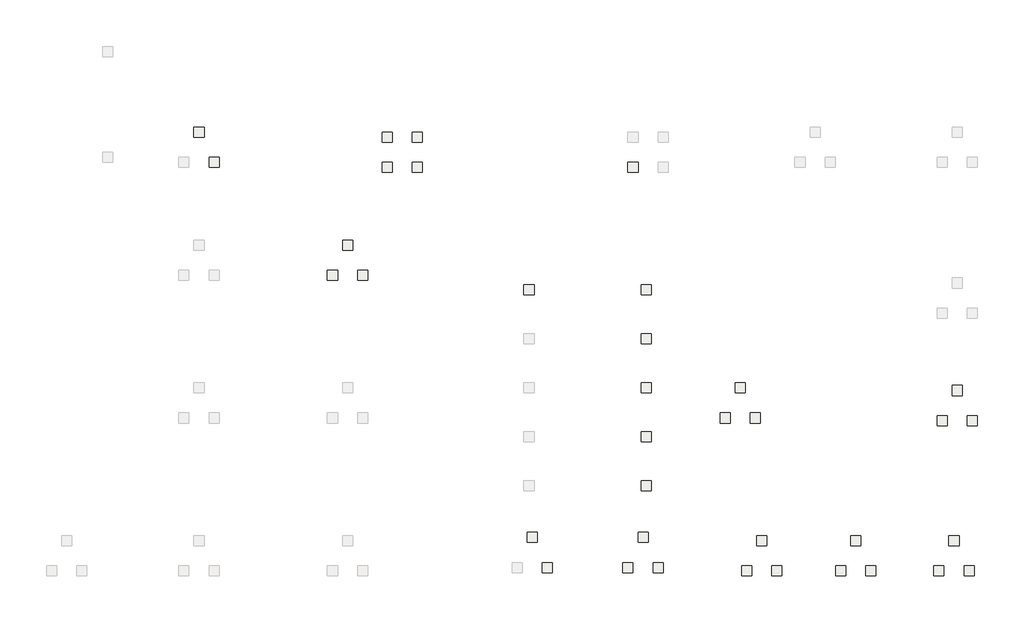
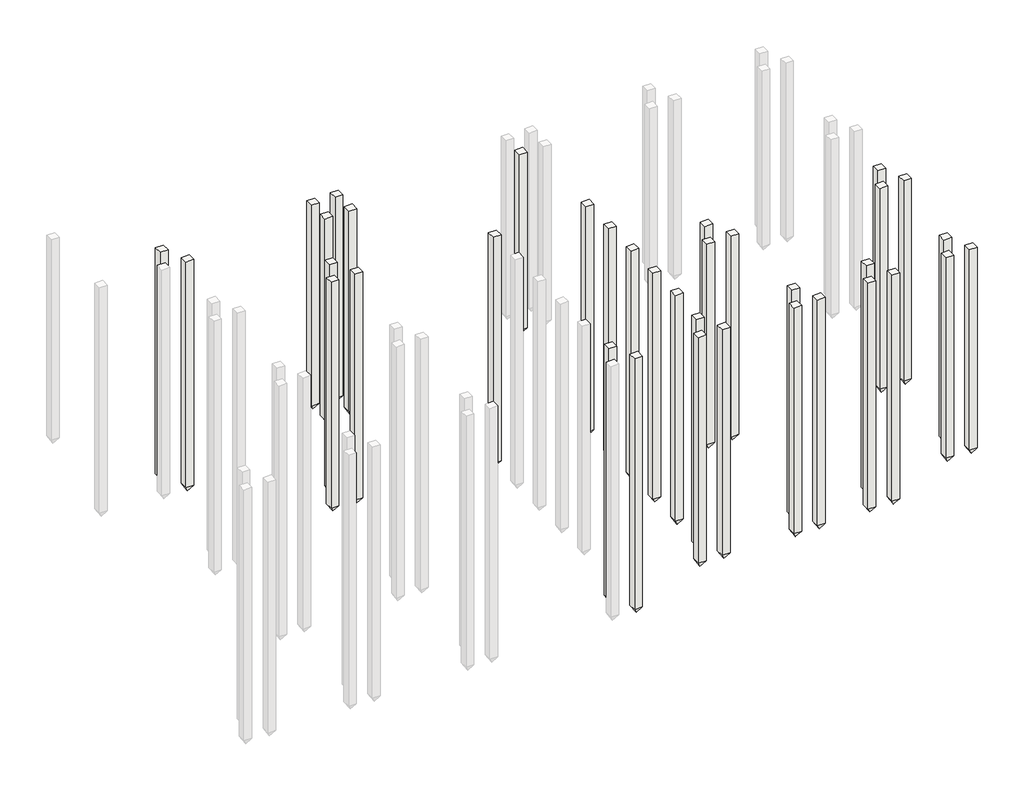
# One storey, part 5 of 6: 36 slabs.
"""IFC4 building model written with IfcOpenShell, lengths in millimetres."""

from ifc_helpers import new_model, si_unit, origin, place, context, project, spatial, faceted_brep, element, save

model = new_model("IFC4")

# Units and contexts
model_context = context("Model", 3, world=origin())
ifc_project = project(units=[si_unit("LENGTHUNIT", "METRE", prefix="MILLI")], contexts=[model_context])

# Site, building, storey
site = spatial("IfcSite", under=ifc_project)
building = spatial("IfcBuilding", under=site)
storey = spatial("IfcBuildingStorey", under=building, Name="КЖм.-1.150 (Верх свай 1)", Elevation=-1150.0)

# Slabs
placement = place(None, origin())
element("IfcSlab", 1, ObjectType="Бетонная свая прямоугольного сечения : C100.30-9", at=placement, inside=storey, context=model_context, shape_type="Brep", body=[
    faceted_brep([(48163.0761143, 17999.4703517, -1150.0), (47863.0761143, 17999.4703517, -1150.0), (47863.0761143, 17699.4703517, -1150.0), (48163.0761143, 17699.4703517, -1150.0), (48163.0761143, 17999.4703517, -1200.0), (48163.0761143, 17999.4703517, -1300.0), (48163.0761143, 17999.4703517, -11150.0), (47863.0761143, 17999.4703517, -11150.0), (47863.0761143, 17999.4703517, -1300.0), (47863.0761143, 17999.4703517, -1200.0), (47863.0761143, 17699.4703517, -11150.0), (47863.0761143, 17699.4703517, -1300.0), (47863.0761143, 17699.4703517, -1200.0), (48163.0761143, 17699.4703517, -11150.0), (48163.0761143, 17699.4703517, -1300.0), (48163.0761143, 17699.4703517, -1200.0), (48013.4986756, 17849.8505968, -11400.0), (48013.4986756, 17849.0505968, -11400.0), (48012.6986756, 17849.0505968, -11400.0), (48012.6986756, 17849.8505968, -11400.0)], [[[0, 1, 2, 3]], [[1, 0, 4, 5, 6, 7, 8, 9]], [[2, 1, 9, 8, 7, 10, 11, 12]], [[3, 2, 12, 11, 10, 13, 14, 15]], [[0, 3, 15, 14, 13, 6, 5, 4]], [[16, 17, 18, 19]], [[17, 16, 6, 13]], [[18, 17, 13, 10]], [[19, 18, 10, 7]], [[16, 19, 7, 6]]]),
])
element("IfcSlab", 2, ObjectType="Бетонная свая прямоугольного сечения : C100.30-9", at=placement, inside=storey, context=model_context, shape_type="Brep", body=[
    faceted_brep([(48313.0018576, 17099.4702629, -1150.0), (48313.0017661, 16799.4702629, -1150.0), (48613.0017661, 16799.4701715, -1150.0), (48613.0018576, 17099.4701715, -1150.0), (48613.0018576, 17099.4701715, -1200.0), (48613.0018576, 17099.4701715, -1300.0), (48613.0018576, 17099.4701715, -11150.0), (48313.0018576, 17099.4702629, -11150.0), (48313.0018576, 17099.4702629, -1300.0), (48313.0018576, 17099.4702629, -1200.0), (48613.0017661, 16799.4701715, -1200.0), (48613.0017661, 16799.4701715, -1300.0), (48613.0017661, 16799.4701715, -11150.0), (48313.0017661, 16799.4702629, -1200.0), (48313.0017661, 16799.4702629, -1300.0), (48313.0017661, 16799.4702629, -11150.0), (48462.5792507, 16949.8504624, -11400.0), (48463.3792507, 16949.8504622, -11400.0), (48463.3792505, 16949.0504622, -11400.0), (48462.5792505, 16949.0504624, -11400.0)], [[[0, 1, 2, 3]], [[3, 4, 5, 6, 7, 8, 9, 0]], [[2, 10, 11, 12, 6, 5, 4, 3]], [[1, 13, 14, 15, 12, 11, 10, 2]], [[0, 9, 8, 7, 15, 14, 13, 1]], [[16, 17, 18, 19]], [[19, 15, 7, 16]], [[18, 12, 15, 19]], [[17, 6, 12, 18]], [[16, 7, 6, 17]]]),
])
element("IfcSlab", 3, ObjectType="Бетонная свая прямоугольного сечения : C70.30-8", at=placement, inside=storey, context=model_context, shape_type="Brep", body=[
    faceted_brep([(51163.050956, 28734.4354275, -1150.0), (51163.050956, 29034.4354275, -1150.0), (50863.050956, 29034.4354275, -1150.0), (50863.050956, 28734.4354275, -1150.0), (50863.050956, 28734.4354275, -1200.0), (50863.050956, 28734.4354275, -1300.0), (50863.050956, 28734.4354275, -8150.0), (51163.050956, 28734.4354275, -8150.0), (51163.050956, 28734.4354275, -1300.0), (51163.050956, 28734.4354275, -1200.0), (50863.050956, 29034.4354275, -1200.0), (50863.050956, 29034.4354275, -1300.0), (50863.050956, 29034.4354275, -8150.0), (51163.050956, 29034.4354275, -1200.0), (51163.050956, 29034.4354275, -1300.0), (51163.050956, 29034.4354275, -8150.0), (51013.4735173, 28884.0551824, -8400.0), (51012.6735173, 28884.0551824, -8400.0), (51012.6735173, 28884.8551824, -8400.0), (51013.4735173, 28884.8551824, -8400.0)], [[[0, 1, 2, 3]], [[3, 4, 5, 6, 7, 8, 9, 0]], [[2, 10, 11, 12, 6, 5, 4, 3]], [[1, 13, 14, 15, 12, 11, 10, 2]], [[0, 9, 8, 7, 15, 14, 13, 1]], [[16, 17, 18, 19]], [[19, 15, 7, 16]], [[18, 12, 15, 19]], [[17, 6, 12, 18]], [[16, 7, 6, 17]]]),
])
element("IfcSlab", 4, ObjectType="Бетонная свая прямоугольного сечения : C80.30-8", at=placement, inside=storey, context=model_context, shape_type="Brep", body=[
    faceted_brep([(53913.0495126, 21559.4772766, -1150.0), (53613.0495126, 21559.4772766, -1150.0), (53613.0495126, 21259.4772766, -1150.0), (53913.0495126, 21259.4772766, -1150.0), (53913.0495126, 21559.4772766, -1200.0), (53913.0495126, 21559.4772766, -9150.0), (53613.0495126, 21559.4772766, -9150.0), (53613.0495126, 21559.4772766, -1200.0), (53613.0495126, 21259.4772766, -9150.0), (53613.0495126, 21259.4772766, -1200.0), (53913.0495126, 21259.4772766, -9150.0), (53913.0495126, 21259.4772766, -1200.0), (53763.4720738, 21409.8575217, -9400.0), (53763.4720738, 21409.0575217, -9400.0), (53762.6720738, 21409.0575217, -9400.0), (53762.6720738, 21409.8575217, -9400.0)], [[[0, 1, 2, 3]], [[1, 0, 4, 5, 6, 7]], [[2, 1, 7, 6, 8, 9]], [[3, 2, 9, 8, 10, 11]], [[0, 3, 11, 10, 5, 4]], [[12, 13, 14, 15]], [[13, 12, 5, 10]], [[14, 13, 10, 8]], [[15, 14, 8, 6]], [[12, 15, 6, 5]]]),
])
element("IfcSlab", 5, ObjectType="Бетонная свая прямоугольного сечения : C80.30-8", at=placement, inside=storey, context=model_context, shape_type="Brep", body=[
    faceted_brep([(54363.0754845, 22459.4772739, -1150.0), (54063.0754845, 22459.4772739, -1150.0), (54063.0754845, 22159.4772739, -1150.0), (54363.0754845, 22159.4772739, -1150.0), (54363.0754845, 22459.4772739, -1200.0), (54363.0754845, 22459.4772739, -9150.0), (54063.0754845, 22459.4772739, -9150.0), (54063.0754845, 22459.4772739, -1200.0), (54063.0754845, 22159.4772739, -9150.0), (54063.0754845, 22159.4772739, -1200.0), (54363.0754845, 22159.4772739, -9150.0), (54363.0754845, 22159.4772739, -1200.0), (54213.4980457, 22309.857519, -9400.0), (54213.4980457, 22309.057519, -9400.0), (54212.6980457, 22309.057519, -9400.0), (54212.6980457, 22309.857519, -9400.0)], [[[0, 1, 2, 3]], [[1, 0, 4, 5, 6, 7]], [[2, 1, 7, 6, 8, 9]], [[3, 2, 9, 8, 10, 11]], [[0, 3, 11, 10, 5, 4]], [[12, 13, 14, 15]], [[13, 12, 5, 10]], [[14, 13, 10, 8]], [[15, 14, 8, 6]], [[12, 15, 6, 5]]]),
])
element("IfcSlab", 6, ObjectType="Бетонная свая прямоугольного сечения : C80.30-8", at=placement, inside=storey, context=model_context, shape_type="Brep", body=[
    faceted_brep([(54513.0012278, 21559.4771851, -1150.0), (54513.0011363, 21259.4771851, -1150.0), (54813.0011363, 21259.4770936, -1150.0), (54813.0012278, 21559.4770936, -1150.0), (54813.0012278, 21559.4770936, -1200.0), (54813.0012278, 21559.4770936, -9150.0), (54513.0012278, 21559.4771851, -9150.0), (54513.0012278, 21559.4771851, -1200.0), (54813.0011363, 21259.4770936, -1200.0), (54813.0011363, 21259.4770936, -9150.0), (54513.0011363, 21259.4771851, -1200.0), (54513.0011363, 21259.4771851, -9150.0), (54662.5786209, 21409.8573846, -9400.0), (54663.3786209, 21409.8573844, -9400.0), (54663.3786207, 21409.0573844, -9400.0), (54662.5786207, 21409.0573846, -9400.0)], [[[0, 1, 2, 3]], [[3, 4, 5, 6, 7, 0]], [[2, 8, 9, 5, 4, 3]], [[1, 10, 11, 9, 8, 2]], [[0, 7, 6, 11, 10, 1]], [[12, 13, 14, 15]], [[15, 11, 6, 12]], [[14, 9, 11, 15]], [[13, 5, 9, 14]], [[12, 6, 5, 13]]]),
])
element("IfcSlab", 7, ObjectType="Бетонная свая прямоугольного сечения : C80.30-8", at=placement, inside=storey, context=model_context, shape_type="Brep", body=[
    faceted_brep([(60383.0501888, 21479.4786856, -1150.0), (60083.0501888, 21479.4786856, -1150.0), (60083.0501888, 21179.4786856, -1150.0), (60383.0501888, 21179.4786856, -1150.0), (60383.0501888, 21479.4786856, -1200.0), (60383.0501888, 21479.4786856, -1300.0), (60383.0501888, 21479.4786856, -9150.0), (60083.0501888, 21479.4786856, -9150.0), (60083.0501888, 21479.4786856, -1300.0), (60083.0501888, 21479.4786856, -1200.0), (60083.0501888, 21179.4786856, -9150.0), (60083.0501888, 21179.4786856, -1300.0), (60083.0501888, 21179.4786856, -1200.0), (60383.0501888, 21179.4786856, -9150.0), (60383.0501888, 21179.4786856, -1300.0), (60383.0501888, 21179.4786856, -1200.0), (60233.4727501, 21329.8589307, -9400.0), (60233.4727501, 21329.0589307, -9400.0), (60232.6727501, 21329.0589307, -9400.0), (60232.6727501, 21329.8589307, -9400.0)], [[[0, 1, 2, 3]], [[1, 0, 4, 5, 6, 7, 8, 9]], [[2, 1, 9, 8, 7, 10, 11, 12]], [[3, 2, 12, 11, 10, 13, 14, 15]], [[0, 3, 15, 14, 13, 6, 5, 4]], [[16, 17, 18, 19]], [[17, 16, 6, 13]], [[18, 17, 13, 10]], [[19, 18, 10, 7]], [[16, 19, 7, 6]]]),
])
element("IfcSlab", 8, ObjectType="Бетонная свая прямоугольного сечения : C80.30-8", at=placement, inside=storey, context=model_context, shape_type="Brep", body=[
    faceted_brep([(60833.0761608, 22379.4786829, -1150.0), (60533.0761608, 22379.4786829, -1150.0), (60533.0761608, 22079.4786829, -1150.0), (60833.0761608, 22079.4786829, -1150.0), (60833.0761608, 22379.4786829, -1200.0), (60833.0761608, 22379.4786829, -1300.0), (60833.0761608, 22379.4786829, -9150.0), (60533.0761608, 22379.4786829, -9150.0), (60533.0761608, 22379.4786829, -1300.0), (60533.0761608, 22379.4786829, -1200.0), (60533.0761608, 22079.4786829, -9150.0), (60533.0761608, 22079.4786829, -1300.0), (60533.0761608, 22079.4786829, -1200.0), (60833.0761608, 22079.4786829, -9150.0), (60833.0761608, 22079.4786829, -1300.0), (60833.0761608, 22079.4786829, -1200.0), (60683.498722, 22229.858928, -9400.0), (60683.498722, 22229.058928, -9400.0), (60682.698722, 22229.058928, -9400.0), (60682.698722, 22229.858928, -9400.0)], [[[0, 1, 2, 3]], [[1, 0, 4, 5, 6, 7, 8, 9]], [[2, 1, 9, 8, 7, 10, 11, 12]], [[3, 2, 12, 11, 10, 13, 14, 15]], [[0, 3, 15, 14, 13, 6, 5, 4]], [[16, 17, 18, 19]], [[17, 16, 6, 13]], [[18, 17, 13, 10]], [[19, 18, 10, 7]], [[16, 19, 7, 6]]]),
])
element("IfcSlab", 9, ObjectType="Бетонная свая прямоугольного сечения : C80.30-8", at=placement, inside=storey, context=model_context, shape_type="Brep", body=[
    faceted_brep([(60983.001904, 21479.4785941, -1150.0), (60983.0018125, 21179.4785941, -1150.0), (61283.0018125, 21179.4785026, -1150.0), (61283.001904, 21479.4785026, -1150.0), (61283.001904, 21479.4785026, -1200.0), (61283.001904, 21479.4785026, -1300.0), (61283.001904, 21479.4785026, -9150.0), (60983.001904, 21479.4785941, -9150.0), (60983.001904, 21479.4785941, -1300.0), (60983.001904, 21479.4785941, -1200.0), (61283.0018125, 21179.4785026, -1200.0), (61283.0018125, 21179.4785026, -1300.0), (61283.0018125, 21179.4785026, -9150.0), (60983.0018125, 21179.4785941, -1200.0), (60983.0018125, 21179.4785941, -1300.0), (60983.0018125, 21179.4785941, -9150.0), (61132.5792972, 21329.8587936, -9400.0), (61133.3792972, 21329.8587934, -9400.0), (61133.3792969, 21329.0587934, -9400.0), (61132.5792969, 21329.0587936, -9400.0)], [[[0, 1, 2, 3]], [[3, 4, 5, 6, 7, 8, 9, 0]], [[2, 10, 11, 12, 6, 5, 4, 3]], [[1, 13, 14, 15, 12, 11, 10, 2]], [[0, 9, 8, 7, 15, 14, 13, 1]], [[16, 17, 18, 19]], [[19, 15, 7, 16]], [[18, 12, 15, 19]], [[17, 6, 12, 18]], [[16, 7, 6, 17]]]),
])
element("IfcSlab", 10, ObjectType="Бетонная свая прямоугольного сечения : C80.30-8", at=placement, inside=storey, context=model_context, shape_type="Brep", body=[
    faceted_brep([(60283.0501888, 16999.4786856, -1150.0), (59983.0501888, 16999.4786856, -1150.0), (59983.0501888, 16699.4786856, -1150.0), (60283.0501888, 16699.4786856, -1150.0), (60283.0501888, 16999.4786856, -1200.0), (60283.0501888, 16999.4786856, -1300.0), (60283.0501888, 16999.4786856, -9150.0), (59983.0501888, 16999.4786856, -9150.0), (59983.0501888, 16999.4786856, -1300.0), (59983.0501888, 16999.4786856, -1200.0), (59983.0501888, 16699.4786856, -9150.0), (59983.0501888, 16699.4786856, -1300.0), (59983.0501888, 16699.4786856, -1200.0), (60283.0501888, 16699.4786856, -9150.0), (60283.0501888, 16699.4786856, -1300.0), (60283.0501888, 16699.4786856, -1200.0), (60133.4727501, 16849.8589307, -9400.0), (60133.4727501, 16849.0589307, -9400.0), (60132.6727501, 16849.0589307, -9400.0), (60132.6727501, 16849.8589307, -9400.0)], [[[0, 1, 2, 3]], [[1, 0, 4, 5, 6, 7, 8, 9]], [[2, 1, 9, 8, 7, 10, 11, 12]], [[3, 2, 12, 11, 10, 13, 14, 15]], [[0, 3, 15, 14, 13, 6, 5, 4]], [[16, 17, 18, 19]], [[17, 16, 6, 13]], [[18, 17, 13, 10]], [[19, 18, 10, 7]], [[16, 19, 7, 6]]]),
])
element("IfcSlab", 11, ObjectType="Бетонная свая прямоугольного сечения : C80.30-8", at=placement, inside=storey, context=model_context, shape_type="Brep", body=[
    faceted_brep([(60733.0761608, 17899.4786829, -1150.0), (60433.0761608, 17899.4786829, -1150.0), (60433.0761608, 17599.4786829, -1150.0), (60733.0761608, 17599.4786829, -1150.0), (60733.0761608, 17899.4786829, -1200.0), (60733.0761608, 17899.4786829, -1300.0), (60733.0761608, 17899.4786829, -9150.0), (60433.0761608, 17899.4786829, -9150.0), (60433.0761608, 17899.4786829, -1300.0), (60433.0761608, 17899.4786829, -1200.0), (60433.0761608, 17599.4786829, -9150.0), (60433.0761608, 17599.4786829, -1300.0), (60433.0761608, 17599.4786829, -1200.0), (60733.0761608, 17599.4786829, -9150.0), (60733.0761608, 17599.4786829, -1300.0), (60733.0761608, 17599.4786829, -1200.0), (60583.498722, 17749.858928, -9400.0), (60583.498722, 17749.058928, -9400.0), (60582.698722, 17749.058928, -9400.0), (60582.698722, 17749.858928, -9400.0)], [[[0, 1, 2, 3]], [[1, 0, 4, 5, 6, 7, 8, 9]], [[2, 1, 9, 8, 7, 10, 11, 12]], [[3, 2, 12, 11, 10, 13, 14, 15]], [[0, 3, 15, 14, 13, 6, 5, 4]], [[16, 17, 18, 19]], [[17, 16, 6, 13]], [[18, 17, 13, 10]], [[19, 18, 10, 7]], [[16, 19, 7, 6]]]),
])
element("IfcSlab", 12, ObjectType="Бетонная свая прямоугольного сечения : C80.30-8", at=placement, inside=storey, context=model_context, shape_type="Brep", body=[
    faceted_brep([(60883.001904, 16999.4785941, -1150.0), (60883.0018125, 16699.4785941, -1150.0), (61183.0018125, 16699.4785026, -1150.0), (61183.001904, 16999.4785026, -1150.0), (61183.001904, 16999.4785026, -1200.0), (61183.001904, 16999.4785026, -1300.0), (61183.001904, 16999.4785026, -9150.0), (60883.001904, 16999.4785941, -9150.0), (60883.001904, 16999.4785941, -1300.0), (60883.001904, 16999.4785941, -1200.0), (61183.0018125, 16699.4785026, -1200.0), (61183.0018125, 16699.4785026, -1300.0), (61183.0018125, 16699.4785026, -9150.0), (60883.0018125, 16699.4785941, -1200.0), (60883.0018125, 16699.4785941, -1300.0), (60883.0018125, 16699.4785941, -9150.0), (61032.5792972, 16849.8587936, -9400.0), (61033.3792972, 16849.8587934, -9400.0), (61033.3792969, 16849.0587934, -9400.0), (61032.5792969, 16849.0587936, -9400.0)], [[[0, 1, 2, 3]], [[3, 4, 5, 6, 7, 8, 9, 0]], [[2, 10, 11, 12, 6, 5, 4, 3]], [[1, 13, 14, 15, 12, 11, 10, 2]], [[0, 9, 8, 7, 15, 14, 13, 1]], [[16, 17, 18, 19]], [[19, 15, 7, 16]], [[18, 12, 15, 19]], [[17, 6, 12, 18]], [[16, 7, 6, 17]]]),
])
element("IfcSlab", 13, ObjectType="Бетонная свая прямоугольного сечения : C80.30-8", at=placement, inside=storey, context=model_context, shape_type="Brep", body=[
    faceted_brep([(43833.0504299, 29934.4354275, -1150.0), (43533.0504299, 29934.4354275, -1150.0), (43533.0504299, 29634.4354275, -1150.0), (43833.0504299, 29634.4354275, -1150.0), (43833.0504299, 29934.4354275, -1200.0), (43833.0504299, 29934.4354275, -1300.0), (43833.0504299, 29934.4354275, -9150.0), (43533.0504299, 29934.4354275, -9150.0), (43533.0504299, 29934.4354275, -1300.0), (43533.0504299, 29934.4354275, -1200.0), (43533.0504299, 29634.4354275, -9150.0), (43533.0504299, 29634.4354275, -1300.0), (43533.0504299, 29634.4354275, -1200.0), (43833.0504299, 29634.4354275, -9150.0), (43833.0504299, 29634.4354275, -1300.0), (43833.0504299, 29634.4354275, -1200.0), (43683.4729911, 29784.8156726, -9400.0), (43683.4729911, 29784.0156726, -9400.0), (43682.6729911, 29784.0156726, -9400.0), (43682.6729911, 29784.8156726, -9400.0)], [[[0, 1, 2, 3]], [[1, 0, 4, 5, 6, 7, 8, 9]], [[2, 1, 9, 8, 7, 10, 11, 12]], [[3, 2, 12, 11, 10, 13, 14, 15]], [[0, 3, 15, 14, 13, 6, 5, 4]], [[16, 17, 18, 19]], [[17, 16, 6, 13]], [[18, 17, 13, 10]], [[19, 18, 10, 7]], [[16, 19, 7, 6]]]),
])
element("IfcSlab", 14, ObjectType="Бетонная свая прямоугольного сечения : C80.30-8", at=placement, inside=storey, context=model_context, shape_type="Brep", body=[
    faceted_brep([(44433.0503634, 29934.4353361, -1150.0), (44433.0502719, 29634.4353361, -1150.0), (44733.0502719, 29634.4352446, -1150.0), (44733.0503634, 29934.4352446, -1150.0), (44733.0503634, 29934.4352446, -1200.0), (44733.0503634, 29934.4352446, -1300.0), (44733.0503634, 29934.4352446, -9150.0), (44433.0503634, 29934.4353361, -9150.0), (44433.0503634, 29934.4353361, -1300.0), (44433.0503634, 29934.4353361, -1200.0), (44733.0502719, 29634.4352446, -1200.0), (44733.0502719, 29634.4352446, -1300.0), (44733.0502719, 29634.4352446, -9150.0), (44433.0502719, 29634.4353361, -1200.0), (44433.0502719, 29634.4353361, -1300.0), (44433.0502719, 29634.4353361, -9150.0), (44582.6277566, 29784.8155355, -9400.0), (44583.4277566, 29784.8155353, -9400.0), (44583.4277563, 29784.0155353, -9400.0), (44582.6277563, 29784.0155355, -9400.0)], [[[0, 1, 2, 3]], [[3, 4, 5, 6, 7, 8, 9, 0]], [[2, 10, 11, 12, 6, 5, 4, 3]], [[1, 13, 14, 15, 12, 11, 10, 2]], [[0, 9, 8, 7, 15, 14, 13, 1]], [[16, 17, 18, 19]], [[19, 15, 7, 16]], [[18, 12, 15, 19]], [[17, 6, 12, 18]], [[16, 7, 6, 17]]]),
])
element("IfcSlab", 15, ObjectType="Бетонная свая прямоугольного сечения : C80.30-8", at=placement, inside=storey, context=model_context, shape_type="Brep", body=[
    faceted_brep([(43833.0504299, 28734.4354275, -1150.0), (43833.0504299, 29034.4354275, -1150.0), (43533.0504299, 29034.4354275, -1150.0), (43533.0504299, 28734.4354275, -1150.0), (43533.0504299, 28734.4354275, -1200.0), (43533.0504299, 28734.4354275, -1300.0), (43533.0504299, 28734.4354275, -9150.0), (43833.0504299, 28734.4354275, -9150.0), (43833.0504299, 28734.4354275, -1300.0), (43833.0504299, 28734.4354275, -1200.0), (43533.0504299, 29034.4354275, -1200.0), (43533.0504299, 29034.4354275, -1300.0), (43533.0504299, 29034.4354275, -9150.0), (43833.0504299, 29034.4354275, -1200.0), (43833.0504299, 29034.4354275, -1300.0), (43833.0504299, 29034.4354275, -9150.0), (43683.4729911, 28884.0551824, -9400.0), (43682.6729911, 28884.0551824, -9400.0), (43682.6729911, 28884.8551824, -9400.0), (43683.4729911, 28884.8551824, -9400.0)], [[[0, 1, 2, 3]], [[3, 4, 5, 6, 7, 8, 9, 0]], [[2, 10, 11, 12, 6, 5, 4, 3]], [[1, 13, 14, 15, 12, 11, 10, 2]], [[0, 9, 8, 7, 15, 14, 13, 1]], [[16, 17, 18, 19]], [[19, 15, 7, 16]], [[18, 12, 15, 19]], [[17, 6, 12, 18]], [[16, 7, 6, 17]]]),
])
element("IfcSlab", 16, ObjectType="Бетонная свая прямоугольного сечения : C80.30-8", at=placement, inside=storey, context=model_context, shape_type="Brep", body=[
    faceted_brep([(44433.0503634, 28734.435519, -1150.0), (44733.0503634, 28734.4356105, -1150.0), (44733.0502719, 29034.4356105, -1150.0), (44433.0502719, 29034.435519, -1150.0), (44433.0503634, 28734.435519, -1200.0), (44433.0503634, 28734.435519, -1300.0), (44433.0503634, 28734.435519, -9150.0), (44733.0503634, 28734.4356105, -9150.0), (44733.0503634, 28734.4356105, -1300.0), (44733.0503634, 28734.4356105, -1200.0), (44733.0502719, 29034.4356105, -9150.0), (44733.0502719, 29034.4356105, -1300.0), (44733.0502719, 29034.4356105, -1200.0), (44433.0502719, 29034.435519, -9150.0), (44433.0502719, 29034.435519, -1300.0), (44433.0502719, 29034.435519, -1200.0), (44582.6277566, 28884.0553195, -9400.0), (44582.6277563, 28884.8553195, -9400.0), (44583.4277563, 28884.8553197, -9400.0), (44583.4277566, 28884.0553197, -9400.0)], [[[0, 1, 2, 3]], [[1, 0, 4, 5, 6, 7, 8, 9]], [[2, 1, 9, 8, 7, 10, 11, 12]], [[3, 2, 12, 11, 10, 13, 14, 15]], [[0, 3, 15, 14, 13, 6, 5, 4]], [[16, 17, 18, 19]], [[17, 16, 6, 13]], [[18, 17, 13, 10]], [[19, 18, 10, 7]], [[16, 19, 7, 6]]]),
])
element("IfcSlab", 17, ObjectType="Бетонная свая прямоугольного сечения : C90.30-8", at=placement, inside=storey, context=model_context, shape_type="Brep", body=[
    faceted_brep([(51562.8975835, 25384.4354275, -1150.0), (51262.8975835, 25384.4354275, -1150.0), (51262.8975835, 25084.4354275, -1150.0), (51562.8975835, 25084.4354275, -1150.0), (51562.8975835, 25384.4354275, -1200.0), (51562.8975835, 25384.4354275, -1300.0), (51562.8975835, 25384.4354275, -10150.0), (51262.8975835, 25384.4354275, -10150.0), (51262.8975835, 25384.4354275, -1300.0), (51262.8975835, 25384.4354275, -1200.0), (51262.8975835, 25084.4354275, -10150.0), (51262.8975835, 25084.4354275, -1300.0), (51262.8975835, 25084.4354275, -1200.0), (51562.8975835, 25084.4354275, -10150.0), (51562.8975835, 25084.4354275, -1300.0), (51562.8975835, 25084.4354275, -1200.0), (51413.3201447, 25234.8156726, -10400.0), (51413.3201447, 25234.0156726, -10400.0), (51412.5201447, 25234.0156726, -10400.0), (51412.5201447, 25234.8156726, -10400.0)], [[[0, 1, 2, 3]], [[1, 0, 4, 5, 6, 7, 8, 9]], [[2, 1, 9, 8, 7, 10, 11, 12]], [[3, 2, 12, 11, 10, 13, 14, 15]], [[0, 3, 15, 14, 13, 6, 5, 4]], [[16, 17, 18, 19]], [[17, 16, 6, 13]], [[18, 17, 13, 10]], [[19, 18, 10, 7]], [[16, 19, 7, 6]]]),
])
element("IfcSlab", 18, ObjectType="Бетонная свая прямоугольного сечения : C90.30-8", at=placement, inside=storey, context=model_context, shape_type="Brep", body=[
    faceted_brep([(57353.0501612, 16999.4703544, -1150.0), (57053.0501612, 16999.4703544, -1150.0), (57053.0501612, 16699.4703544, -1150.0), (57353.0501612, 16699.4703544, -1150.0), (57353.0501612, 16999.4703544, -1200.0), (57353.0501612, 16999.4703544, -1300.0), (57353.0501612, 16999.4703544, -10150.0), (57053.0501612, 16999.4703544, -10150.0), (57053.0501612, 16999.4703544, -1300.0), (57053.0501612, 16999.4703544, -1200.0), (57053.0501612, 16699.4703544, -10150.0), (57053.0501612, 16699.4703544, -1300.0), (57053.0501612, 16699.4703544, -1200.0), (57353.0501612, 16699.4703544, -10150.0), (57353.0501612, 16699.4703544, -1300.0), (57353.0501612, 16699.4703544, -1200.0), (57203.4727225, 16849.8505995, -10400.0), (57203.4727225, 16849.0505995, -10400.0), (57202.6727225, 16849.0505995, -10400.0), (57202.6727225, 16849.8505995, -10400.0)], [[[0, 1, 2, 3]], [[1, 0, 4, 5, 6, 7, 8, 9]], [[2, 1, 9, 8, 7, 10, 11, 12]], [[3, 2, 12, 11, 10, 13, 14, 15]], [[0, 3, 15, 14, 13, 6, 5, 4]], [[16, 17, 18, 19]], [[17, 16, 6, 13]], [[18, 17, 13, 10]], [[19, 18, 10, 7]], [[16, 19, 7, 6]]]),
])
element("IfcSlab", 19, ObjectType="Бетонная свая прямоугольного сечения : C90.30-8", at=placement, inside=storey, context=model_context, shape_type="Brep", body=[
    faceted_brep([(57803.0761332, 17899.4703517, -1150.0), (57503.0761332, 17899.4703517, -1150.0), (57503.0761332, 17599.4703517, -1150.0), (57803.0761332, 17599.4703517, -1150.0), (57803.0761332, 17899.4703517, -1200.0), (57803.0761332, 17899.4703517, -1300.0), (57803.0761332, 17899.4703517, -10150.0), (57503.0761332, 17899.4703517, -10150.0), (57503.0761332, 17899.4703517, -1300.0), (57503.0761332, 17899.4703517, -1200.0), (57503.0761332, 17599.4703517, -10150.0), (57503.0761332, 17599.4703517, -1300.0), (57503.0761332, 17599.4703517, -1200.0), (57803.0761332, 17599.4703517, -10150.0), (57803.0761332, 17599.4703517, -1300.0), (57803.0761332, 17599.4703517, -1200.0), (57653.4986944, 17749.8505968, -10400.0), (57653.4986944, 17749.0505968, -10400.0), (57652.6986944, 17749.0505968, -10400.0), (57652.6986944, 17749.8505968, -10400.0)], [[[0, 1, 2, 3]], [[1, 0, 4, 5, 6, 7, 8, 9]], [[2, 1, 9, 8, 7, 10, 11, 12]], [[3, 2, 12, 11, 10, 13, 14, 15]], [[0, 3, 15, 14, 13, 6, 5, 4]], [[16, 17, 18, 19]], [[17, 16, 6, 13]], [[18, 17, 13, 10]], [[19, 18, 10, 7]], [[16, 19, 7, 6]]]),
])
element("IfcSlab", 20, ObjectType="Бетонная свая прямоугольного сечения : C90.30-8", at=placement, inside=storey, context=model_context, shape_type="Brep", body=[
    faceted_brep([(57953.0018764, 16999.4702629, -1150.0), (57953.0017849, 16699.4702629, -1150.0), (58253.0017849, 16699.4701715, -1150.0), (58253.0018764, 16999.4701715, -1150.0), (58253.0018764, 16999.4701715, -1200.0), (58253.0018764, 16999.4701715, -1300.0), (58253.0018764, 16999.4701715, -10150.0), (57953.0018764, 16999.4702629, -10150.0), (57953.0018764, 16999.4702629, -1300.0), (57953.0018764, 16999.4702629, -1200.0), (58253.0017849, 16699.4701715, -1200.0), (58253.0017849, 16699.4701715, -1300.0), (58253.0017849, 16699.4701715, -10150.0), (57953.0017849, 16699.4702629, -1200.0), (57953.0017849, 16699.4702629, -1300.0), (57953.0017849, 16699.4702629, -10150.0), (58102.5792696, 16849.8504624, -10400.0), (58103.3792696, 16849.8504622, -10400.0), (58103.3792693, 16849.0504622, -10400.0), (58102.5792693, 16849.0504624, -10400.0)], [[[0, 1, 2, 3]], [[3, 4, 5, 6, 7, 8, 9, 0]], [[2, 10, 11, 12, 6, 5, 4, 3]], [[1, 13, 14, 15, 12, 11, 10, 2]], [[0, 9, 8, 7, 15, 14, 13, 1]], [[16, 17, 18, 19]], [[19, 15, 7, 16]], [[18, 12, 15, 19]], [[17, 6, 12, 18]], [[16, 7, 6, 17]]]),
])
element("IfcSlab", 21, ObjectType="Бетонная свая прямоугольного сечения : C90.30-8", at=placement, inside=storey, context=model_context, shape_type="Brep", body=[
    faceted_brep([(54553.0501612, 16999.4703544, -1150.0), (54253.0501612, 16999.4703544, -1150.0), (54253.0501612, 16699.4703544, -1150.0), (54553.0501612, 16699.4703544, -1150.0), (54553.0501612, 16999.4703544, -1200.0), (54553.0501612, 16999.4703544, -1300.0), (54553.0501612, 16999.4703544, -10150.0), (54253.0501612, 16999.4703544, -10150.0), (54253.0501612, 16999.4703544, -1300.0), (54253.0501612, 16999.4703544, -1200.0), (54253.0501612, 16699.4703544, -10150.0), (54253.0501612, 16699.4703544, -1300.0), (54253.0501612, 16699.4703544, -1200.0), (54553.0501612, 16699.4703544, -10150.0), (54553.0501612, 16699.4703544, -1300.0), (54553.0501612, 16699.4703544, -1200.0), (54403.4727225, 16849.8505995, -10400.0), (54403.4727225, 16849.0505995, -10400.0), (54402.6727225, 16849.0505995, -10400.0), (54402.6727225, 16849.8505995, -10400.0)], [[[0, 1, 2, 3]], [[1, 0, 4, 5, 6, 7, 8, 9]], [[2, 1, 9, 8, 7, 10, 11, 12]], [[3, 2, 12, 11, 10, 13, 14, 15]], [[0, 3, 15, 14, 13, 6, 5, 4]], [[16, 17, 18, 19]], [[17, 16, 6, 13]], [[18, 17, 13, 10]], [[19, 18, 10, 7]], [[16, 19, 7, 6]]]),
])
element("IfcSlab", 22, ObjectType="Бетонная свая прямоугольного сечения : C90.30-8", at=placement, inside=storey, context=model_context, shape_type="Brep", body=[
    faceted_brep([(55003.0761332, 17899.4703517, -1150.0), (54703.0761332, 17899.4703517, -1150.0), (54703.0761332, 17599.4703517, -1150.0), (55003.0761332, 17599.4703517, -1150.0), (55003.0761332, 17899.4703517, -1200.0), (55003.0761332, 17899.4703517, -1300.0), (55003.0761332, 17899.4703517, -10150.0), (54703.0761332, 17899.4703517, -10150.0), (54703.0761332, 17899.4703517, -1300.0), (54703.0761332, 17899.4703517, -1200.0), (54703.0761332, 17599.4703517, -10150.0), (54703.0761332, 17599.4703517, -1300.0), (54703.0761332, 17599.4703517, -1200.0), (55003.0761332, 17599.4703517, -10150.0), (55003.0761332, 17599.4703517, -1300.0), (55003.0761332, 17599.4703517, -1200.0), (54853.4986944, 17749.8505968, -10400.0), (54853.4986944, 17749.0505968, -10400.0), (54852.6986944, 17749.0505968, -10400.0), (54852.6986944, 17749.8505968, -10400.0)], [[[0, 1, 2, 3]], [[1, 0, 4, 5, 6, 7, 8, 9]], [[2, 1, 9, 8, 7, 10, 11, 12]], [[3, 2, 12, 11, 10, 13, 14, 15]], [[0, 3, 15, 14, 13, 6, 5, 4]], [[16, 17, 18, 19]], [[17, 16, 6, 13]], [[18, 17, 13, 10]], [[19, 18, 10, 7]], [[16, 19, 7, 6]]]),
])
element("IfcSlab", 23, ObjectType="Бетонная свая прямоугольного сечения : C90.30-8", at=placement, inside=storey, context=model_context, shape_type="Brep", body=[
    faceted_brep([(55153.0018764, 16999.4702629, -1150.0), (55153.0017849, 16699.4702629, -1150.0), (55453.0017849, 16699.4701715, -1150.0), (55453.0018764, 16999.4701715, -1150.0), (55453.0018764, 16999.4701715, -1200.0), (55453.0018764, 16999.4701715, -1300.0), (55453.0018764, 16999.4701715, -10150.0), (55153.0018764, 16999.4702629, -10150.0), (55153.0018764, 16999.4702629, -1300.0), (55153.0018764, 16999.4702629, -1200.0), (55453.0017849, 16699.4701715, -1200.0), (55453.0017849, 16699.4701715, -1300.0), (55453.0017849, 16699.4701715, -10150.0), (55153.0017849, 16699.4702629, -1200.0), (55153.0017849, 16699.4702629, -1300.0), (55153.0017849, 16699.4702629, -10150.0), (55302.5792696, 16849.8504624, -10400.0), (55303.3792696, 16849.8504622, -10400.0), (55303.3792693, 16849.0504622, -10400.0), (55302.5792693, 16849.0504624, -10400.0)], [[[0, 1, 2, 3]], [[3, 4, 5, 6, 7, 8, 9, 0]], [[2, 10, 11, 12, 6, 5, 4, 3]], [[1, 13, 14, 15, 12, 11, 10, 2]], [[0, 9, 8, 7, 15, 14, 13, 1]], [[16, 17, 18, 19]], [[19, 15, 7, 16]], [[18, 12, 15, 19]], [[17, 6, 12, 18]], [[16, 7, 6, 17]]]),
])
element("IfcSlab", 24, ObjectType="Бетонная свая прямоугольного сечения : C90.30-8", at=placement, inside=storey, context=model_context, shape_type="Brep", body=[
    faceted_brep([(51013.0504472, 17099.4703544, -1150.0), (50713.0504472, 17099.4703544, -1150.0), (50713.0504472, 16799.4703544, -1150.0), (51013.0504472, 16799.4703544, -1150.0), (51013.0504472, 17099.4703544, -1200.0), (51013.0504472, 17099.4703544, -1300.0), (51013.0504472, 17099.4703544, -10150.0), (50713.0504472, 17099.4703544, -10150.0), (50713.0504472, 17099.4703544, -1300.0), (50713.0504472, 17099.4703544, -1200.0), (50713.0504472, 16799.4703544, -10150.0), (50713.0504472, 16799.4703544, -1300.0), (50713.0504472, 16799.4703544, -1200.0), (51013.0504472, 16799.4703544, -10150.0), (51013.0504472, 16799.4703544, -1300.0), (51013.0504472, 16799.4703544, -1200.0), (50863.4730084, 16949.8505995, -10400.0), (50863.4730084, 16949.0505995, -10400.0), (50862.6730084, 16949.0505995, -10400.0), (50862.6730084, 16949.8505995, -10400.0)], [[[0, 1, 2, 3]], [[1, 0, 4, 5, 6, 7, 8, 9]], [[2, 1, 9, 8, 7, 10, 11, 12]], [[3, 2, 12, 11, 10, 13, 14, 15]], [[0, 3, 15, 14, 13, 6, 5, 4]], [[16, 17, 18, 19]], [[17, 16, 6, 13]], [[18, 17, 13, 10]], [[19, 18, 10, 7]], [[16, 19, 7, 6]]]),
])
element("IfcSlab", 25, ObjectType="Бетонная свая прямоугольного сечения : C90.30-8", at=placement, inside=storey, context=model_context, shape_type="Brep", body=[
    faceted_brep([(51463.0764191, 17999.4703517, -1150.0), (51163.0764191, 17999.4703517, -1150.0), (51163.0764191, 17699.4703517, -1150.0), (51463.0764191, 17699.4703517, -1150.0), (51463.0764191, 17999.4703517, -1200.0), (51463.0764191, 17999.4703517, -1300.0), (51463.0764191, 17999.4703517, -10150.0), (51163.0764191, 17999.4703517, -10150.0), (51163.0764191, 17999.4703517, -1300.0), (51163.0764191, 17999.4703517, -1200.0), (51163.0764191, 17699.4703517, -10150.0), (51163.0764191, 17699.4703517, -1300.0), (51163.0764191, 17699.4703517, -1200.0), (51463.0764191, 17699.4703517, -10150.0), (51463.0764191, 17699.4703517, -1300.0), (51463.0764191, 17699.4703517, -1200.0), (51313.4989803, 17849.8505968, -10400.0), (51313.4989803, 17849.0505968, -10400.0), (51312.6989803, 17849.0505968, -10400.0), (51312.6989803, 17849.8505968, -10400.0)], [[[0, 1, 2, 3]], [[1, 0, 4, 5, 6, 7, 8, 9]], [[2, 1, 9, 8, 7, 10, 11, 12]], [[3, 2, 12, 11, 10, 13, 14, 15]], [[0, 3, 15, 14, 13, 6, 5, 4]], [[16, 17, 18, 19]], [[17, 16, 6, 13]], [[18, 17, 13, 10]], [[19, 18, 10, 7]], [[16, 19, 7, 6]]]),
])
element("IfcSlab", 26, ObjectType="Бетонная свая прямоугольного сечения : C90.30-8", at=placement, inside=storey, context=model_context, shape_type="Brep", body=[
    faceted_brep([(51613.0021623, 17099.4702629, -1150.0), (51613.0020709, 16799.4702629, -1150.0), (51913.0020709, 16799.4701715, -1150.0), (51913.0021623, 17099.4701715, -1150.0), (51913.0021623, 17099.4701715, -1200.0), (51913.0021623, 17099.4701715, -1300.0), (51913.0021623, 17099.4701715, -10150.0), (51613.0021623, 17099.4702629, -10150.0), (51613.0021623, 17099.4702629, -1300.0), (51613.0021623, 17099.4702629, -1200.0), (51913.0020709, 16799.4701715, -1200.0), (51913.0020709, 16799.4701715, -1300.0), (51913.0020709, 16799.4701715, -10150.0), (51613.0020709, 16799.4702629, -1200.0), (51613.0020709, 16799.4702629, -1300.0), (51613.0020709, 16799.4702629, -10150.0), (51762.5795555, 16949.8504624, -10400.0), (51763.3795555, 16949.8504622, -10400.0), (51763.3795552, 16949.0504622, -10400.0), (51762.5795552, 16949.0504624, -10400.0)], [[[0, 1, 2, 3]], [[3, 4, 5, 6, 7, 8, 9, 0]], [[2, 10, 11, 12, 6, 5, 4, 3]], [[1, 13, 14, 15, 12, 11, 10, 2]], [[0, 9, 8, 7, 15, 14, 13, 1]], [[16, 17, 18, 19]], [[19, 15, 7, 16]], [[18, 12, 15, 19]], [[17, 6, 12, 18]], [[16, 7, 6, 17]]]),
])
element("IfcSlab", 27, ObjectType="Бетонная свая прямоугольного сечения : C90.30-8", at=placement, inside=storey, context=model_context, shape_type="Brep", body=[
    faceted_brep([(42203.0498996, 25814.4704078, -1150.0), (41903.0498996, 25814.4704078, -1150.0), (41903.0498996, 25514.4704078, -1150.0), (42203.0498996, 25514.4704078, -1150.0), (42203.0498996, 25814.4704078, -1200.0), (42203.0498996, 25814.4704078, -1300.0), (42203.0498996, 25814.4704078, -10150.0), (41903.0498996, 25814.4704078, -10150.0), (41903.0498996, 25814.4704078, -1300.0), (41903.0498996, 25814.4704078, -1200.0), (41903.0498996, 25514.4704078, -10150.0), (41903.0498996, 25514.4704078, -1300.0), (41903.0498996, 25514.4704078, -1200.0), (42203.0498996, 25514.4704078, -10150.0), (42203.0498996, 25514.4704078, -1300.0), (42203.0498996, 25514.4704078, -1200.0), (42053.4724609, 25664.8506529, -10400.0), (42053.4724609, 25664.0506529, -10400.0), (42052.6724609, 25664.0506529, -10400.0), (42052.6724609, 25664.8506529, -10400.0)], [[[0, 1, 2, 3]], [[1, 0, 4, 5, 6, 7, 8, 9]], [[2, 1, 9, 8, 7, 10, 11, 12]], [[3, 2, 12, 11, 10, 13, 14, 15]], [[0, 3, 15, 14, 13, 6, 5, 4]], [[16, 17, 18, 19]], [[17, 16, 6, 13]], [[18, 17, 13, 10]], [[19, 18, 10, 7]], [[16, 19, 7, 6]]]),
])
element("IfcSlab", 28, ObjectType="Бетонная свая прямоугольного сечения : C90.30-8", at=placement, inside=storey, context=model_context, shape_type="Brep", body=[
    faceted_brep([(42653.0758715, 26714.4704051, -1150.0), (42353.0758715, 26714.4704051, -1150.0), (42353.0758715, 26414.4704051, -1150.0), (42653.0758715, 26414.4704051, -1150.0), (42653.0758715, 26714.4704051, -1200.0), (42653.0758715, 26714.4704051, -1300.0), (42653.0758715, 26714.4704051, -10150.0), (42353.0758715, 26714.4704051, -10150.0), (42353.0758715, 26714.4704051, -1300.0), (42353.0758715, 26714.4704051, -1200.0), (42353.0758715, 26414.4704051, -10150.0), (42353.0758715, 26414.4704051, -1300.0), (42353.0758715, 26414.4704051, -1200.0), (42653.0758715, 26414.4704051, -10150.0), (42653.0758715, 26414.4704051, -1300.0), (42653.0758715, 26414.4704051, -1200.0), (42503.4984328, 26564.8506502, -10400.0), (42503.4984328, 26564.0506502, -10400.0), (42502.6984328, 26564.0506502, -10400.0), (42502.6984328, 26564.8506502, -10400.0)], [[[0, 1, 2, 3]], [[1, 0, 4, 5, 6, 7, 8, 9]], [[2, 1, 9, 8, 7, 10, 11, 12]], [[3, 2, 12, 11, 10, 13, 14, 15]], [[0, 3, 15, 14, 13, 6, 5, 4]], [[16, 17, 18, 19]], [[17, 16, 6, 13]], [[18, 17, 13, 10]], [[19, 18, 10, 7]], [[16, 19, 7, 6]]]),
])
element("IfcSlab", 29, ObjectType="Бетонная свая прямоугольного сечения : C90.30-8", at=placement, inside=storey, context=model_context, shape_type="Brep", body=[
    faceted_brep([(42803.0016148, 25814.4703164, -1150.0), (42803.0015233, 25514.4703164, -1150.0), (43103.0015233, 25514.4702249, -1150.0), (43103.0016148, 25814.4702249, -1150.0), (43103.0016148, 25814.4702249, -1200.0), (43103.0016148, 25814.4702249, -1300.0), (43103.0016148, 25814.4702249, -10150.0), (42803.0016148, 25814.4703164, -10150.0), (42803.0016148, 25814.4703164, -1300.0), (42803.0016148, 25814.4703164, -1200.0), (43103.0015233, 25514.4702249, -1200.0), (43103.0015233, 25514.4702249, -1300.0), (43103.0015233, 25514.4702249, -10150.0), (42803.0015233, 25514.4703164, -1200.0), (42803.0015233, 25514.4703164, -1300.0), (42803.0015233, 25514.4703164, -10150.0), (42952.5790079, 25664.8505159, -10400.0), (42953.3790079, 25664.8505156, -10400.0), (42953.3790077, 25664.0505156, -10400.0), (42952.5790077, 25664.0505159, -10400.0)], [[[0, 1, 2, 3]], [[3, 4, 5, 6, 7, 8, 9, 0]], [[2, 10, 11, 12, 6, 5, 4, 3]], [[1, 13, 14, 15, 12, 11, 10, 2]], [[0, 9, 8, 7, 15, 14, 13, 1]], [[16, 17, 18, 19]], [[19, 15, 7, 16]], [[18, 12, 15, 19]], [[17, 6, 12, 18]], [[16, 7, 6, 17]]]),
])
element("IfcSlab", 30, ObjectType="Бетонная свая прямоугольного сечения : C90.30-8", at=placement, inside=storey, context=model_context, shape_type="Brep", body=[
    faceted_brep([(38223.0766268, 30084.4704051, -1150.0), (37923.0766268, 30084.4704051, -1150.0), (37923.0766268, 29784.4704051, -1150.0), (38223.0766268, 29784.4704051, -1150.0), (38223.0766268, 30084.4704051, -1200.0), (38223.0766268, 30084.4704051, -1300.0), (38223.0766268, 30084.4704051, -10150.0), (37923.0766268, 30084.4704051, -10150.0), (37923.0766268, 30084.4704051, -1300.0), (37923.0766268, 30084.4704051, -1200.0), (37923.0766268, 29784.4704051, -10150.0), (37923.0766268, 29784.4704051, -1300.0), (37923.0766268, 29784.4704051, -1200.0), (38223.0766268, 29784.4704051, -10150.0), (38223.0766268, 29784.4704051, -1300.0), (38223.0766268, 29784.4704051, -1200.0), (38073.499188, 29934.8506502, -10400.0), (38073.499188, 29934.0506502, -10400.0), (38072.699188, 29934.0506502, -10400.0), (38072.699188, 29934.8506502, -10400.0)], [[[0, 1, 2, 3]], [[1, 0, 4, 5, 6, 7, 8, 9]], [[2, 1, 9, 8, 7, 10, 11, 12]], [[3, 2, 12, 11, 10, 13, 14, 15]], [[0, 3, 15, 14, 13, 6, 5, 4]], [[16, 17, 18, 19]], [[17, 16, 6, 13]], [[18, 17, 13, 10]], [[19, 18, 10, 7]], [[16, 19, 7, 6]]]),
])
element("IfcSlab", 31, ObjectType="Бетонная свая прямоугольного сечения : C90.30-8", at=placement, inside=storey, context=model_context, shape_type="Brep", body=[
    faceted_brep([(38373.0023701, 29184.4703164, -1150.0), (38373.0022786, 28884.4703164, -1150.0), (38673.0022786, 28884.4702249, -1150.0), (38673.0023701, 29184.4702249, -1150.0), (38673.0023701, 29184.4702249, -1200.0), (38673.0023701, 29184.4702249, -1300.0), (38673.0023701, 29184.4702249, -10150.0), (38373.0023701, 29184.4703164, -10150.0), (38373.0023701, 29184.4703164, -1300.0), (38373.0023701, 29184.4703164, -1200.0), (38673.0022786, 28884.4702249, -1200.0), (38673.0022786, 28884.4702249, -1300.0), (38673.0022786, 28884.4702249, -10150.0), (38373.0022786, 28884.4703164, -1200.0), (38373.0022786, 28884.4703164, -1300.0), (38373.0022786, 28884.4703164, -10150.0), (38522.5797632, 29034.8505158, -10400.0), (38523.3797632, 29034.8505156, -10400.0), (38523.379763, 29034.0505156, -10400.0), (38522.579763, 29034.0505158, -10400.0)], [[[0, 1, 2, 3]], [[3, 4, 5, 6, 7, 8, 9, 0]], [[2, 10, 11, 12, 6, 5, 4, 3]], [[1, 13, 14, 15, 12, 11, 10, 2]], [[0, 9, 8, 7, 15, 14, 13, 1]], [[16, 17, 18, 19]], [[19, 15, 7, 16]], [[18, 12, 15, 19]], [[17, 6, 12, 18]], [[16, 7, 6, 17]]]),
])
element("IfcSlab", 32, ObjectType="Бетонная свая прямоугольного сечения : C90.30-8", at=placement, inside=storey, context=model_context, shape_type="Brep", body=[
    faceted_brep([(51562.8975835, 19544.48018, -1150.0), (51262.8975835, 19544.48018, -1150.0), (51262.8975835, 19244.48018, -1150.0), (51562.8975835, 19244.48018, -1150.0), (51562.8975835, 19544.48018, -1200.0), (51562.8975835, 19544.48018, -1300.0), (51562.8975835, 19544.48018, -10150.0), (51262.8975835, 19544.48018, -10150.0), (51262.8975835, 19544.48018, -1300.0), (51262.8975835, 19544.48018, -1200.0), (51262.8975835, 19244.48018, -10150.0), (51262.8975835, 19244.48018, -1300.0), (51262.8975835, 19244.48018, -1200.0), (51562.8975835, 19244.48018, -10150.0), (51562.8975835, 19244.48018, -1300.0), (51562.8975835, 19244.48018, -1200.0), (51413.3201447, 19394.8604251, -10400.0), (51413.3201447, 19394.0604251, -10400.0), (51412.5201447, 19394.0604251, -10400.0), (51412.5201447, 19394.8604251, -10400.0)], [[[0, 1, 2, 3]], [[1, 0, 4, 5, 6, 7, 8, 9]], [[2, 1, 9, 8, 7, 10, 11, 12]], [[3, 2, 12, 11, 10, 13, 14, 15]], [[0, 3, 15, 14, 13, 6, 5, 4]], [[16, 17, 18, 19]], [[17, 16, 6, 13]], [[18, 17, 13, 10]], [[19, 18, 10, 7]], [[16, 19, 7, 6]]]),
])
element("IfcSlab", 33, ObjectType="Бетонная свая прямоугольного сечения : C90.30-8", at=placement, inside=storey, context=model_context, shape_type="Brep", body=[
    faceted_brep([(51562.8975835, 21004.48018, -1150.0), (51262.8975835, 21004.48018, -1150.0), (51262.8975835, 20704.48018, -1150.0), (51562.8975835, 20704.48018, -1150.0), (51562.8975835, 21004.48018, -1200.0), (51562.8975835, 21004.48018, -1300.0), (51562.8975835, 21004.48018, -10150.0), (51262.8975835, 21004.48018, -10150.0), (51262.8975835, 21004.48018, -1300.0), (51262.8975835, 21004.48018, -1200.0), (51262.8975835, 20704.48018, -10150.0), (51262.8975835, 20704.48018, -1300.0), (51262.8975835, 20704.48018, -1200.0), (51562.8975835, 20704.48018, -10150.0), (51562.8975835, 20704.48018, -1300.0), (51562.8975835, 20704.48018, -1200.0), (51413.3201447, 20854.8604251, -10400.0), (51413.3201447, 20854.0604251, -10400.0), (51412.5201447, 20854.0604251, -10400.0), (51412.5201447, 20854.8604251, -10400.0)], [[[0, 1, 2, 3]], [[1, 0, 4, 5, 6, 7, 8, 9]], [[2, 1, 9, 8, 7, 10, 11, 12]], [[3, 2, 12, 11, 10, 13, 14, 15]], [[0, 3, 15, 14, 13, 6, 5, 4]], [[16, 17, 18, 19]], [[17, 16, 6, 13]], [[18, 17, 13, 10]], [[19, 18, 10, 7]], [[16, 19, 7, 6]]]),
])
element("IfcSlab", 34, ObjectType="Бетонная свая прямоугольного сечения : C90.30-8", at=placement, inside=storey, context=model_context, shape_type="Brep", body=[
    faceted_brep([(51562.8975835, 22464.48018, -1150.0), (51262.8975835, 22464.48018, -1150.0), (51262.8975835, 22164.48018, -1150.0), (51562.8975835, 22164.48018, -1150.0), (51562.8975835, 22464.48018, -1200.0), (51562.8975835, 22464.48018, -1300.0), (51562.8975835, 22464.48018, -10150.0), (51262.8975835, 22464.48018, -10150.0), (51262.8975835, 22464.48018, -1300.0), (51262.8975835, 22464.48018, -1200.0), (51262.8975835, 22164.48018, -10150.0), (51262.8975835, 22164.48018, -1300.0), (51262.8975835, 22164.48018, -1200.0), (51562.8975835, 22164.48018, -10150.0), (51562.8975835, 22164.48018, -1300.0), (51562.8975835, 22164.48018, -1200.0), (51413.3201447, 22314.8604251, -10400.0), (51413.3201447, 22314.0604251, -10400.0), (51412.5201447, 22314.0604251, -10400.0), (51412.5201447, 22314.8604251, -10400.0)], [[[0, 1, 2, 3]], [[1, 0, 4, 5, 6, 7, 8, 9]], [[2, 1, 9, 8, 7, 10, 11, 12]], [[3, 2, 12, 11, 10, 13, 14, 15]], [[0, 3, 15, 14, 13, 6, 5, 4]], [[16, 17, 18, 19]], [[17, 16, 6, 13]], [[18, 17, 13, 10]], [[19, 18, 10, 7]], [[16, 19, 7, 6]]]),
])
element("IfcSlab", 35, ObjectType="Бетонная свая прямоугольного сечения : C90.30-8", at=placement, inside=storey, context=model_context, shape_type="Brep", body=[
    faceted_brep([(51562.8975835, 23924.48018, -1150.0), (51262.8975835, 23924.48018, -1150.0), (51262.8975835, 23624.48018, -1150.0), (51562.8975835, 23624.48018, -1150.0), (51562.8975835, 23924.48018, -1200.0), (51562.8975835, 23924.48018, -1300.0), (51562.8975835, 23924.48018, -10150.0), (51262.8975835, 23924.48018, -10150.0), (51262.8975835, 23924.48018, -1300.0), (51262.8975835, 23924.48018, -1200.0), (51262.8975835, 23624.48018, -10150.0), (51262.8975835, 23624.48018, -1300.0), (51262.8975835, 23624.48018, -1200.0), (51562.8975835, 23624.48018, -10150.0), (51562.8975835, 23624.48018, -1300.0), (51562.8975835, 23624.48018, -1200.0), (51413.3201447, 23774.8604251, -10400.0), (51413.3201447, 23774.0604251, -10400.0), (51412.5201447, 23774.0604251, -10400.0), (51412.5201447, 23774.8604251, -10400.0)], [[[0, 1, 2, 3]], [[1, 0, 4, 5, 6, 7, 8, 9]], [[2, 1, 9, 8, 7, 10, 11, 12]], [[3, 2, 12, 11, 10, 13, 14, 15]], [[0, 3, 15, 14, 13, 6, 5, 4]], [[16, 17, 18, 19]], [[17, 16, 6, 13]], [[18, 17, 13, 10]], [[19, 18, 10, 7]], [[16, 19, 7, 6]]]),
])
element("IfcSlab", 36, ObjectType="Бетонная свая прямоугольного сечения : C90.30-8", at=placement, inside=storey, context=model_context, shape_type="Brep", body=[
    faceted_brep([(48062.8975795, 25384.4354275, -1150.0), (47762.8975795, 25384.4354275, -1150.0), (47762.8975795, 25084.4354275, -1150.0), (48062.8975795, 25084.4354275, -1150.0), (48062.8975795, 25384.4354275, -1200.0), (48062.8975795, 25384.4354275, -1300.0), (48062.8975795, 25384.4354275, -10150.0), (47762.8975795, 25384.4354275, -10150.0), (47762.8975795, 25384.4354275, -1300.0), (47762.8975795, 25384.4354275, -1200.0), (47762.8975795, 25084.4354275, -10150.0), (47762.8975795, 25084.4354275, -1300.0), (47762.8975795, 25084.4354275, -1200.0), (48062.8975795, 25084.4354275, -10150.0), (48062.8975795, 25084.4354275, -1300.0), (48062.8975795, 25084.4354275, -1200.0), (47913.3201407, 25234.8156726, -10400.0), (47913.3201407, 25234.0156726, -10400.0), (47912.5201407, 25234.0156726, -10400.0), (47912.5201407, 25234.8156726, -10400.0)], [[[0, 1, 2, 3]], [[1, 0, 4, 5, 6, 7, 8, 9]], [[2, 1, 9, 8, 7, 10, 11, 12]], [[3, 2, 12, 11, 10, 13, 14, 15]], [[0, 3, 15, 14, 13, 6, 5, 4]], [[16, 17, 18, 19]], [[17, 16, 6, 13]], [[18, 17, 13, 10]], [[19, 18, 10, 7]], [[16, 19, 7, 6]]]),
])

save(model, "model.ifc")
